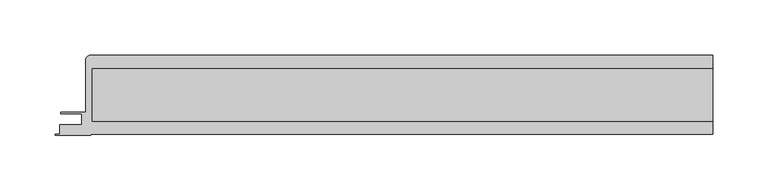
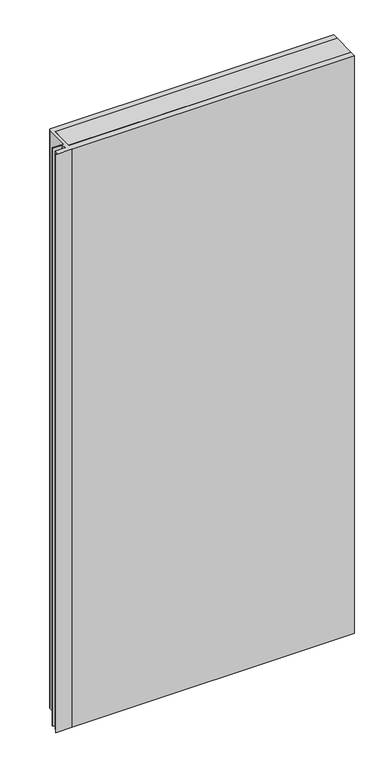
"""IFC4 building model written with IfcOpenShell, lengths in millimetres: plate geometry, Walls_External-Walls_Danpal_Danpatherm-K7-with-AIRPT-Frame : Walls_External-Walls_Danpal_Danpatherm-K7-with-AIRPT-Frame."""

import ifcopenshell
import ifcopenshell.guid

model = None  # the IFC model being written
_history = None  # IfcOwnerHistory: only IFC2X3 demands one
_inside = {}  # id of a spatial element -> (the spatial element, [elements in it])
_under = {}  # id of a project, library or spatial element -> (it, [spatial elements below it])
_declared = {}  # id of a project -> (the project, [libraries it declares])
_typed = {}  # id of a type object -> (the type object, [elements of that type])
_made_of = {}  # id of a material, layer set ... -> (it, [elements and type objects made of it])


def new_model(schema):
    """Start an empty IFC model of exactly this schema.

    Asked for "IFC4X3", IfcOpenShell would pick the latest addendum, in which some entities
    have other attributes; the version numbers below select the first issue.
    IFC2X3 requires an IfcOwnerHistory on every rooted entity: one is made here for all.
    """
    global model, _history
    if schema == "IFC4X3":
        model = ifcopenshell.file(schema_version=(4, 3, 0, 0))
    else:
        model = ifcopenshell.file(schema=schema)
    _inside.clear()
    _under.clear()
    _declared.clear()
    _typed.clear()
    _made_of.clear()
    _history = None
    if model.schema == "IFC2X3":
        org = make("IfcOrganization", Name="unknown")
        user = make(
            "IfcPersonAndOrganization",
            ThePerson=make("IfcPerson", FamilyName="unknown"),
            TheOrganization=org,
        )
        app = make(
            "IfcApplication",
            ApplicationDeveloper=org,
            Version="unknown",
            ApplicationFullName="unknown",
            ApplicationIdentifier="unknown",
        )
        _history = make(
            "IfcOwnerHistory",
            OwningUser=user,
            OwningApplication=app,
            ChangeAction="ADDED",
            CreationDate=0,
        )
    return model


def make(cls, **values):
    """One entity of the class cls with the attributes given. An attribute that is None is left unset."""
    return model.create_entity(
        cls, **{name: value for name, value in values.items() if value is not None}
    )


def rooted(cls, **values):
    """An entity with a GlobalId (a new one), such as an element, a storey or a relation."""
    return make(cls, GlobalId=ifcopenshell.guid.new(), OwnerHistory=_history, **values)


def si_unit(unit_type, name, prefix=None):
    """IfcSIUnit, for example si_unit("LENGTHUNIT", "METRE", prefix="MILLI")."""
    return make("IfcSIUnit", UnitType=unit_type, Prefix=prefix, Name=name)


def assignment(units):
    """IfcUnitAssignment: the units of a project."""
    return None if units is None else make("IfcUnitAssignment", Units=units)


def point(xyz):
    """IfcCartesianPoint."""
    return None if xyz is None else make("IfcCartesianPoint", Coordinates=xyz)


def direction(xyz):
    """IfcDirection."""
    return None if xyz is None else make("IfcDirection", DirectionRatios=xyz)


def frame(location, z_axis=None, x_axis=None):
    """IfcAxis2Placement3D, a coordinate frame: its origin and axes. An axis left out is left unset."""
    return make(
        "IfcAxis2Placement3D",
        Location=point(location),
        Axis=direction(z_axis),
        RefDirection=direction(x_axis),
    )


def frame_2d(location, x_axis=None):
    """IfcAxis2Placement2D, a coordinate frame in the plane: its origin and x axis."""
    return make(
        "IfcAxis2Placement2D", Location=point(location), RefDirection=direction(x_axis)
    )


def origin():
    """The frame at (0, 0, 0) with its axes left unset."""
    return frame((0.0, 0.0, 0.0))


def place(relative_to, where):
    """IfcLocalPlacement: puts the frame where relative to a parent placement (None: the world)."""
    return make(
        "IfcLocalPlacement", PlacementRelTo=relative_to, RelativePlacement=where
    )


def context(
    kind, dimensions, precision=None, world=None, true_north=None, identifier=None
):
    """IfcGeometricRepresentationContext, for example the 3D "Model" context."""
    return make(
        "IfcGeometricRepresentationContext",
        ContextIdentifier=identifier,
        ContextType=kind,
        CoordinateSpaceDimension=dimensions,
        Precision=precision,
        WorldCoordinateSystem=world,
        TrueNorth=true_north,
    )


def project(units=None, contexts=None):
    """IfcProject with its units and contexts."""
    return rooted(
        "IfcProject",
        Name="project",
        RepresentationContexts=contexts,
        UnitsInContext=assignment(units),
    )


def spatial(cls, under=None, at=None, **own):
    """A site, building, storey or space (cls), placed at a placement, below another one or the project."""
    s = rooted(cls, ObjectPlacement=at, **own)
    if under is not None:
        _under.setdefault(under.id(), (under, []))[1].append(s)
    return s


def polyline(points):
    """IfcPolyline through the points."""
    return make("IfcPolyline", Points=[point(p) for p in points])


def circle_curve(where, radius):
    """IfcCircle in the frame where."""
    return make("IfcCircle", Position=where, Radius=radius)


def trimmed(basis, trim1, trim2, sense, master):
    """IfcTrimmedCurve: the piece of a basis curve between two trims."""
    return make(
        "IfcTrimmedCurve",
        BasisCurve=basis,
        Trim1=trim1,
        Trim2=trim2,
        SenseAgreement=sense,
        MasterRepresentation=master,
    )


def segment(curve, same_sense, transition):
    """IfcCompositeCurveSegment."""
    return make(
        "IfcCompositeCurveSegment",
        Transition=transition,
        SameSense=same_sense,
        ParentCurve=curve,
    )


def composite_curve(segments, self_intersect=None):
    """IfcCompositeCurve: segments joined end to end."""
    return make("IfcCompositeCurve", Segments=segments, SelfIntersect=self_intersect)


def outline(outer, holes=None, kind="AREA"):
    """IfcArbitraryClosedProfileDef: a profile drawn as a closed curve; with holes, ...WithVoids."""
    if holes is None:
        return make("IfcArbitraryClosedProfileDef", ProfileType=kind, OuterCurve=outer)
    return make(
        "IfcArbitraryProfileDefWithVoids",
        ProfileType=kind,
        OuterCurve=outer,
        InnerCurves=holes,
    )


def extrude(swept, where, along, depth):
    """IfcExtrudedAreaSolid: the profile swept, set in the frame where, extruded along a direction by depth."""
    return make(
        "IfcExtrudedAreaSolid",
        SweptArea=swept,
        Position=where,
        ExtrudedDirection=direction(along),
        Depth=depth,
    )


def shape(context_of_items, identifier, shape_type, items):
    """IfcShapeRepresentation: the items that make up one representation, for example the "Body"."""
    return make(
        "IfcShapeRepresentation",
        ContextOfItems=context_of_items,
        RepresentationIdentifier=identifier,
        RepresentationType=shape_type,
        Items=items,
    )


def source(mapping_origin, context_of_items, identifier, shape_type, items):
    """IfcRepresentationMap: a shape defined once, which mapped items show again and again."""
    return make(
        "IfcRepresentationMap",
        MappingOrigin=mapping_origin,
        MappedRepresentation=shape(context_of_items, identifier, shape_type, items),
    )


def transform(
    local_origin,
    x_axis=None,
    y_axis=None,
    z_axis=None,
    scale=None,
    scale2=None,
    scale3=None,
    uniform=True,
):
    """IfcCartesianTransformationOperator3D, or its non-uniform kind. x_axis, y_axis, z_axis: its Axis1, 2, 3."""
    if uniform:
        return make(
            "IfcCartesianTransformationOperator3D",
            Axis1=direction(x_axis),
            Axis2=direction(y_axis),
            LocalOrigin=point(local_origin),
            Scale=scale,
            Axis3=direction(z_axis),
        )
    return make(
        "IfcCartesianTransformationOperator3DnonUniform",
        Axis1=direction(x_axis),
        Axis2=direction(y_axis),
        LocalOrigin=point(local_origin),
        Scale=scale,
        Axis3=direction(z_axis),
        Scale2=scale2,
        Scale3=scale3,
    )


def mapped(mapping_source, mapping_target):
    """IfcMappedItem: shows the shape of a source again, moved by a transform."""
    return make(
        "IfcMappedItem", MappingSource=mapping_source, MappingTarget=mapping_target
    )


def made_of(thing, what):
    """Note that an element or type object is made of a material, layer set ...; save() writes the relation."""
    if what is not None:
        _made_of.setdefault(what.id(), (what, []))[1].append(thing)
    return thing


def element(
    cls,
    number,
    at=None,
    inside=None,
    cuts=None,
    type_object=None,
    material=None,
    context=None,
    identifier="Body",
    shape_type=None,
    held_by="IfcProductDefinitionShape",
    body=None,
    shapes=None,
    **own,
):
    """One element of the class cls, such as IfcWall. Its Tag is "e" and its number.

    at: its placement. inside: the storey or other place that contains it. cuts: it is an
    opening in that element (IfcRelVoidsElement). A single representation is given by context,
    identifier, shape_type and body (its items); several are given by shapes. held_by: the class
    of the entity that holds the representations. save() writes the other relations.
    """
    e = rooted(cls, Tag="e%d" % number, ObjectPlacement=at, **own)
    if body is not None:
        shapes = [shape(context, identifier, shape_type, body)]
    if shapes is not None:
        e.Representation = make(held_by, Representations=shapes)
    if inside is not None:
        _inside.setdefault(inside.id(), (inside, []))[1].append(e)
    if cuts is not None:
        rooted(
            "IfcRelVoidsElement", RelatingBuildingElement=cuts, RelatedOpeningElement=e
        )
    if type_object is not None:
        _typed.setdefault(type_object.id(), (type_object, []))[1].append(e)
    return made_of(e, material)


def aggregate(whole, parts):
    """IfcRelAggregates: a whole, such as a stair, and the parts it consists of."""
    return rooted("IfcRelAggregates", RelatingObject=whole, RelatedObjects=parts)


def save(model, path):
    """Write the relations noted so far, then the file.

    IfcRelAggregates (storeys below a building ...), IfcRelContainedInSpatialStructure (elements
    in a storey), IfcRelDefinesByType, IfcRelAssociatesMaterial and IfcRelDeclares: one each for
    every whole, place, type object, material and project.
    """
    for whole, parts in _under.values():
        aggregate(whole, parts)
    for where, things in _inside.values():
        rooted(
            "IfcRelContainedInSpatialStructure",
            RelatedElements=things,
            RelatingStructure=where,
        )
    for kind, things in _typed.values():
        rooted("IfcRelDefinesByType", RelatedObjects=things, RelatingType=kind)
    for what, things in _made_of.values():
        rooted("IfcRelAssociatesMaterial", RelatedObjects=things, RelatingMaterial=what)
    for by, libraries in _declared.values():
        rooted("IfcRelDeclares", RelatingContext=by, RelatedDefinitions=libraries)
    model.write(path)


def plate_8ef7ebab(model_context):
    return source(origin(), model_context, "Body", "SweptSolid", [
        extrude(outline(polyline([(-277.7129481, 60.3432727), (283.309327, 60.3432727), (283.309327, 12.7999917), (-277.7129481, 12.7999917), (-277.7129481, 60.3432727)])), frame((0.0, 0.0, -22.0), z_axis=(0.0, 0.0, 1.0), x_axis=(1.0, 0.0, 0.0)), (0.0, 0.0, 1.0), 1216.459327),
        extrude(outline(composite_curve([segment(polyline([(-279.4664181, 72.343285), (283.309327, 72.343285), (283.309327, 60.3432727), (-277.7129481, 60.3432727), (-277.7129481, 12.7999917), (283.309327, 12.7999917), (283.309327, 0.8), (-279.0523184, 0.8), (-279.0523184, 0.0), (-310.9523184, 0.0), (-310.9523184, 0.8), (-306.7523184, 0.8), (-306.7523184, 9.7656785), (-286.9225586, 9.7656785), (-286.9225586, 19.6715177), (-305.8787043, 19.6715177), (-305.8787043, 20.9715623), (-283.309327, 20.9715623), (-283.309327, 68.5003761)]), True, "CONTINUOUS"), segment(trimmed(circle_curve(frame_2d((-279.4664181, 68.5003761)), 3.8429089), [point((-283.309327, 68.5003761))], [point((-279.4664181, 72.343285))], False, "CARTESIAN"), True, "CONTINUOUS")], self_intersect=False)), frame((0.0, 0.0, -22.0), z_axis=(0.0, 0.0, 1.0), x_axis=(1.0, 0.0, 0.0)), (0.0, 0.0, 1.0), 1216.459327),
    ])


if __name__ == "__main__":
    model = new_model("IFC4")
    model_context = context("Model", 3, world=origin())
    ifc_project = project(units=[si_unit("LENGTHUNIT", "METRE", prefix="MILLI")], contexts=[model_context])
    site = spatial("IfcSite", under=ifc_project)
    building = spatial("IfcBuilding", under=site)
    placement = place(None, origin())
    plate_shape = plate_8ef7ebab(model_context)
    element("IfcPlate", 1, ObjectType="Walls_External-Walls_Danpal_Danpatherm-K7-with-AIRPT-Frame : Walls_External-Walls_Danpal_Danpatherm-K7-with-AIRPT-Frame", at=placement, inside=building, context=model_context, shape_type="MappedRepresentation", body=[
        mapped(plate_shape, transform((0.0, 0.0, 0.0), x_axis=(1.0, 0.0, 0.0), y_axis=(0.0, 1.0, 0.0), z_axis=(0.0, 0.0, 1.0))),
    ])
    save(model, "model.ifc")
